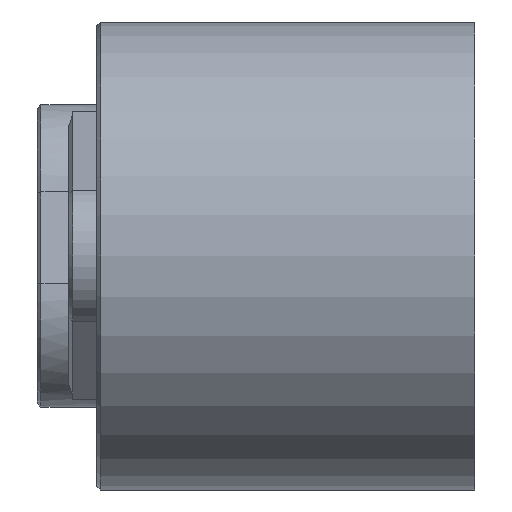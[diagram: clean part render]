
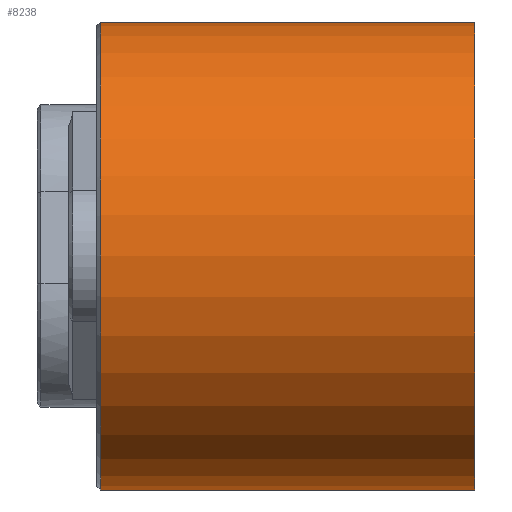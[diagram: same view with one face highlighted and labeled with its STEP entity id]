
A CAD part, left-side view. The second image highlights one B-rep face of the part: STEP entity #8238.
In plain terms, the highlighted cylindrical face has radius 7.874 mm (diameter 15.748 mm), a partial arc.
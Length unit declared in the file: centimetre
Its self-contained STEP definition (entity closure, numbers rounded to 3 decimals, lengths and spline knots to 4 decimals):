
#7030 = AXIS2_PLACEMENT_3D ( 'NONE', #11171, #11165, #11164 ) ;
#7226 = AXIS2_PLACEMENT_3D ( 'NONE', #15140, #15141, #15142 ) ;
#7230 = AXIS2_PLACEMENT_3D ( 'NONE', #15177, #15178, #15179 ) ;
#8238 = ADVANCED_FACE ( 'NONE', ( #9731 ), #9740, .T. ) ;
#9731 = FACE_OUTER_BOUND ( 'NONE', #30007, .T. ) ;
#9740 = CYLINDRICAL_SURFACE ( 'NONE', #7030, 0.7874 ) ;
#11164 = DIRECTION ( 'NONE',  ( 0., 0., 1. ) ) ;
#11165 = DIRECTION ( 'NONE',  ( 0., 1., 0. ) ) ;
#11171 = CARTESIAN_POINT ( 'NONE',  ( -1.9418, 0., 0. ) ) ;
#11345 = ORIENTED_EDGE ( 'NONE', *, *, #23251, .T. ) ;
#11347 = ORIENTED_EDGE ( 'NONE', *, *, #23254, .T. ) ;
#11349 = ORIENTED_EDGE ( 'NONE', *, *, #23255, .F. ) ;
#11350 = ORIENTED_EDGE ( 'NONE', *, *, #23238, .T. ) ;
#12213 = CARTESIAN_POINT ( 'NONE',  ( -1.9418, 1.2598, -0.7874 ) ) ;
#12228 = CARTESIAN_POINT ( 'NONE',  ( -1.9418, 1.2598, 0.7874 ) ) ;
#12231 = CARTESIAN_POINT ( 'NONE',  ( -1.9418, 0., -0.7874 ) ) ;
#12241 = CARTESIAN_POINT ( 'NONE',  ( -1.9418, 0., 0.7874 ) ) ;
#14048 = CIRCLE ( 'NONE', #7226, 0.7874 ) ;
#14068 = CIRCLE ( 'NONE', #7230, 0.7874 ) ;
#14069 = LINE ( 'NONE', #15168, #14072 ) ;
#14072 = VECTOR ( 'NONE', #15169, 100. ) ;
#14077 = LINE ( 'NONE', #15173, #14079 ) ;
#14079 = VECTOR ( 'NONE', #15163, 100. ) ;
#15140 = CARTESIAN_POINT ( 'NONE',  ( -1.9418, 1.2598, 0. ) ) ;
#15141 = DIRECTION ( 'NONE',  ( 0., -1., 0. ) ) ;
#15142 = DIRECTION ( 'NONE',  ( 0., 0., 1. ) ) ;
#15163 = DIRECTION ( 'NONE',  ( 0., -1., 0. ) ) ;
#15168 = CARTESIAN_POINT ( 'NONE',  ( -1.9418, 0., -0.7874 ) ) ;
#15169 = DIRECTION ( 'NONE',  ( 0., -1., 0. ) ) ;
#15173 = CARTESIAN_POINT ( 'NONE',  ( -1.9418, 0., 0.7874 ) ) ;
#15177 = CARTESIAN_POINT ( 'NONE',  ( -1.9418, 0., 0. ) ) ;
#15178 = DIRECTION ( 'NONE',  ( 0., 1., 0. ) ) ;
#15179 = DIRECTION ( 'NONE',  ( 0., 0., 1. ) ) ;
#22422 = VERTEX_POINT ( 'NONE', #12213 ) ;
#22437 = VERTEX_POINT ( 'NONE', #12228 ) ;
#22440 = VERTEX_POINT ( 'NONE', #12231 ) ;
#22450 = VERTEX_POINT ( 'NONE', #12241 ) ;
#23238 = EDGE_CURVE ( 'NONE', #22437, #22422, #14048, .T. ) ;
#23251 = EDGE_CURVE ( 'NONE', #22422, #22440, #14069, .T. ) ;
#23254 = EDGE_CURVE ( 'NONE', #22440, #22450, #14068, .T. ) ;
#23255 = EDGE_CURVE ( 'NONE', #22437, #22450, #14077, .T. ) ;
#30007 = EDGE_LOOP ( 'NONE', ( #11347, #11349, #11350, #11345 ) ) ;
